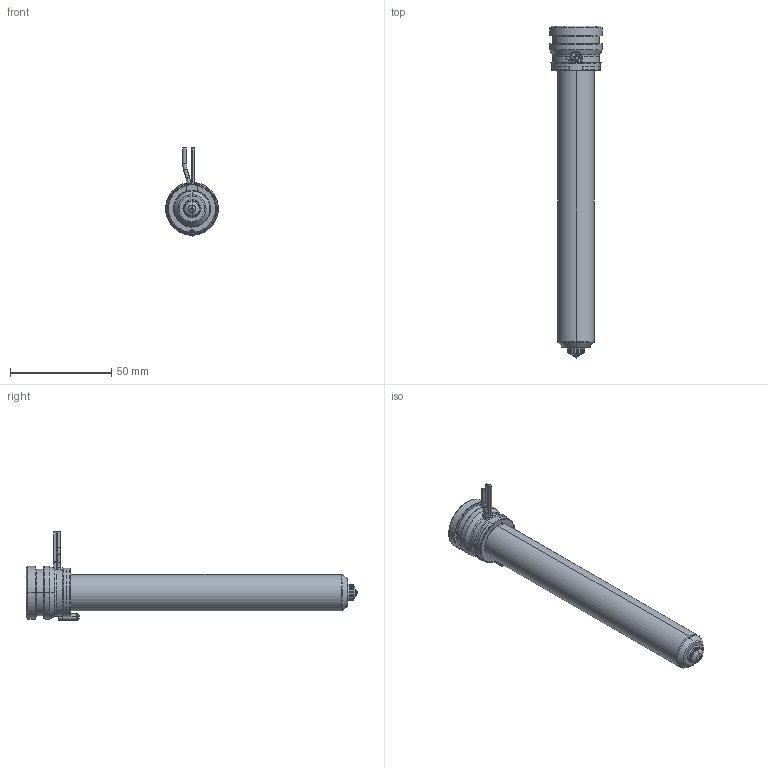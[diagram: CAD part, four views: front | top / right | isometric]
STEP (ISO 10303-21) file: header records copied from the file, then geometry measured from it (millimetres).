
FILE_DESCRIPTION((''),'2;1');
FILE_NAME('MPN-08-24-VSA8-146-A','2026-02-05T12:03:57',('UPTIO'),('Thermoplay S.p.A.'),'CREO PARAMETRIC BY PTC INC, 2023494','CREO PARAMETRIC BY PTC INC, 2023494','');
FILE_SCHEMA(('CONFIG_CONTROL_DESIGN','SHAPE_APPEARANCE_LAYERS_GROUPS'));
Length unit declared in the file: millimetre
Products named in the file (1): MPN-08-24-VSA8-146-A
Bounding box: 26 x 164 x 43.5 mm (x, y, z)
Volume: 31192.5 mm3; surface area: 40449.4 mm2
Topology: 2 solids, 3 shells, 543 faces, 1440 edges, 895 vertices
Faces by surface type: cylinder 182, plane 143, bspline 80, torus 62, cone 60, sphere 10, extrusion 6
Entity records: 29202 total; most frequent: CARTESIAN_POINT 13004, ORIENTED_EDGE 2864, DIRECTION 2580, EDGE_CURVE 1432, AXIS2_PLACEMENT_3D 1007, VERTEX_POINT 895, EDGE_LOOP 571, VECTOR 566
